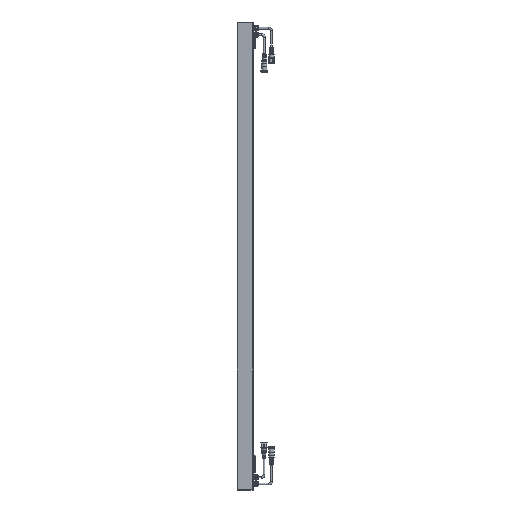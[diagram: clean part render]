
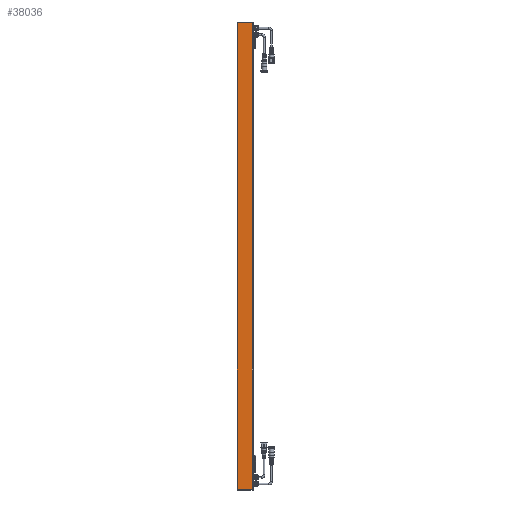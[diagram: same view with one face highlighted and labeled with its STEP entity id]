
A CAD part, left-side view. The second image highlights one B-rep face of the part: STEP entity #38036.
In plain terms, the highlighted planar face has unit normal (-1, 0, 0).
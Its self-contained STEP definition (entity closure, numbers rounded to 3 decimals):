
#620=LINE('',#52421,#2568);
#672=LINE('',#52545,#2620);
#673=LINE('',#52549,#2621);
#674=LINE('',#52550,#2622);
#2568=VECTOR('',#43949,1000.);
#2620=VECTOR('',#44041,1000.);
#2621=VECTOR('',#44046,1000.);
#2622=VECTOR('',#44047,1000.);
#6185=ORIENTED_EDGE('',*,*,#13576,.T.);
#6186=ORIENTED_EDGE('',*,*,#13512,.F.);
#6187=ORIENTED_EDGE('',*,*,#13577,.F.);
#6188=ORIENTED_EDGE('',*,*,#13574,.T.);
#13512=EDGE_CURVE('',#17329,#17326,#620,.T.);
#13574=EDGE_CURVE('',#17382,#17381,#672,.T.);
#13576=EDGE_CURVE('',#17381,#17326,#673,.T.);
#13577=EDGE_CURVE('',#17382,#17329,#674,.T.);
#17326=VERTEX_POINT('',#52415);
#17329=VERTEX_POINT('',#52420);
#17381=VERTEX_POINT('',#52544);
#17382=VERTEX_POINT('',#52546);
#21540=EDGE_LOOP('',(#6185,#6186,#6187,#6188));
#23776=FACE_BOUND('',#21540,.T.);
#25717=PLANE('',#40133);
#38036=ADVANCED_FACE('',(#23776),#25717,.F.);
#40133=AXIS2_PLACEMENT_3D('',#52548,#44044,#44045);
#43949=DIRECTION('',(0.,0.,1.));
#44041=DIRECTION('',(0.,0.,1.));
#44044=DIRECTION('',(1.,0.,0.));
#44045=DIRECTION('',(0.,-1.,0.));
#44046=DIRECTION('',(0.,1.,0.));
#44047=DIRECTION('',(0.,1.,0.));
#52415=CARTESIAN_POINT('',(-12.,73.99,-290.85));
#52420=CARTESIAN_POINT('',(-12.,73.99,-1438.55));
#52421=CARTESIAN_POINT('',(-12.,73.99,-1438.55));
#52544=CARTESIAN_POINT('',(-12.,38.086,-290.85));
#52545=CARTESIAN_POINT('',(-12.,38.086,-1438.55));
#52546=CARTESIAN_POINT('',(-12.,38.086,-1438.55));
#52548=CARTESIAN_POINT('',(-12.,38.086,-1438.55));
#52549=CARTESIAN_POINT('',(-12.,38.086,-290.85));
#52550=CARTESIAN_POINT('',(-12.,38.086,-1438.55));
